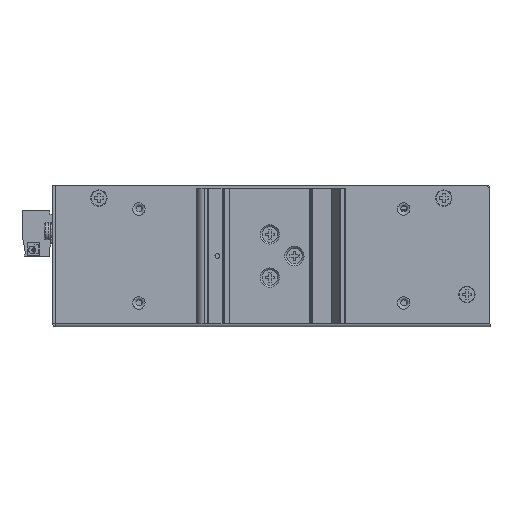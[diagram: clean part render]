
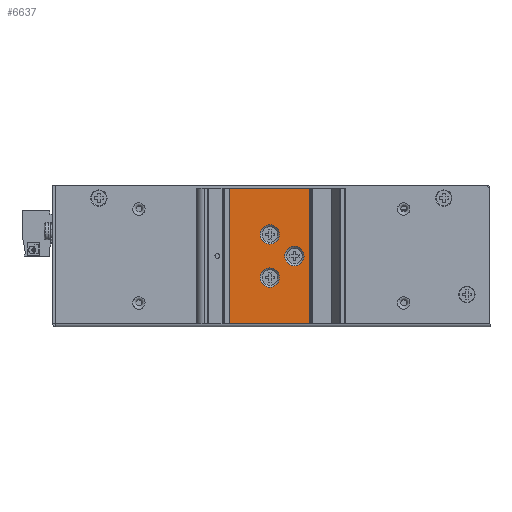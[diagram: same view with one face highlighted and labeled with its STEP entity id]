
A CAD part, front view. The second image highlights one B-rep face of the part: STEP entity #6637.
In plain terms, the highlighted planar face has unit normal (0, -1, 0) as drawn and (1, 0, 0) by its records, which use the part's own axes.
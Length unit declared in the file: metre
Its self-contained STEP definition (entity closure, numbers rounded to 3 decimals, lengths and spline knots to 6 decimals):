
#6637 = ADVANCED_FACE( '', ( #10569, #10570, #10571, #10572 ), #10573, .F. );
#10569 = FACE_OUTER_BOUND( '', #16750, .T. );
#10570 = FACE_BOUND( '', #16751, .T. );
#10571 = FACE_BOUND( '', #16752, .T. );
#10572 = FACE_BOUND( '', #16753, .T. );
#10573 = PLANE( '', #16754 );
#16750 = EDGE_LOOP( '', ( #26457, #26458, #26459, #26460 ) );
#16751 = EDGE_LOOP( '', ( #26461 ) );
#16752 = EDGE_LOOP( '', ( #26462 ) );
#16753 = EDGE_LOOP( '', ( #26463 ) );
#16754 = AXIS2_PLACEMENT_3D( '', #26464, #26465, #26466 );
#26457 = ORIENTED_EDGE( '', *, *, #33687, .T. );
#26458 = ORIENTED_EDGE( '', *, *, #33506, .T. );
#26459 = ORIENTED_EDGE( '', *, *, #31126, .T. );
#26460 = ORIENTED_EDGE( '', *, *, #33314, .F. );
#26461 = ORIENTED_EDGE( '', *, *, #32634, .F. );
#26462 = ORIENTED_EDGE( '', *, *, #31617, .F. );
#26463 = ORIENTED_EDGE( '', *, *, #33629, .F. );
#26464 = CARTESIAN_POINT( '', ( -0.0019, 0., 0.022 ) );
#26465 = DIRECTION( '', ( -1., 0., 0. ) );
#26466 = DIRECTION( '', ( 0., 0., 1. ) );
#31126 = EDGE_CURVE( '', #40639, #40640, #40641, .T. );
#31617 = EDGE_CURVE( '', #41479, #41479, #41480, .T. );
#32634 = EDGE_CURVE( '', #43081, #43081, #43082, .T. );
#33314 = EDGE_CURVE( '', #43980, #40640, #43982, .T. );
#33506 = EDGE_CURVE( '', #44230, #40639, #44231, .T. );
#33629 = EDGE_CURVE( '', #44376, #44376, #44377, .T. );
#33687 = EDGE_CURVE( '', #43980, #44230, #44440, .T. );
#40639 = VERTEX_POINT( '', #49228 );
#40640 = VERTEX_POINT( '', #49229 );
#40641 = LINE( '', #49230, #49231 );
#41479 = VERTEX_POINT( '', #50375 );
#41480 = CIRCLE( '', #50376, 0.00315 );
#43081 = VERTEX_POINT( '', #52664 );
#43082 = CIRCLE( '', #52665, 0.00315 );
#43980 = VERTEX_POINT( '', #54549 );
#43982 = LINE( '', #54551, #54552 );
#44230 = VERTEX_POINT( '', #55224 );
#44231 = LINE( '', #55225, #55226 );
#44376 = VERTEX_POINT( '', #55449 );
#44377 = CIRCLE( '', #55450, 0.00315 );
#44440 = LINE( '', #55535, #55536 );
#49228 = CARTESIAN_POINT( '', ( -0.0019, -0.0051, -0.022 ) );
#49229 = CARTESIAN_POINT( '', ( -0.0019, -0.0051, 0.022 ) );
#49230 = CARTESIAN_POINT( '', ( -0.0019, -0.0051, -0.022 ) );
#49231 = VECTOR( '', #63656, 1. );
#50375 = CARTESIAN_POINT( '', ( -0.0019, -0.02085, 0.01015 ) );
#50376 = AXIS2_PLACEMENT_3D( '', #64272, #64273, #64274 );
#52664 = CARTESIAN_POINT( '', ( -0.0019, -0.02085, -0.00385 ) );
#52665 = AXIS2_PLACEMENT_3D( '', #65504, #65505, #65506 );
#54549 = CARTESIAN_POINT( '', ( -0.0019, -0.03368, 0.022 ) );
#54551 = CARTESIAN_POINT( '', ( -0.0019, -0.03368, 0.022 ) );
#54552 = VECTOR( '', #66207, 1. );
#55224 = CARTESIAN_POINT( '', ( -0.0019, -0.03368, -0.022 ) );
#55225 = CARTESIAN_POINT( '', ( -0.0019, -0.03368, -0.022 ) );
#55226 = VECTOR( '', #66371, 1. );
#55449 = CARTESIAN_POINT( '', ( -0.0019, -0.02885, 0.00315 ) );
#55450 = AXIS2_PLACEMENT_3D( '', #66462, #66463, #66464 );
#55535 = CARTESIAN_POINT( '', ( -0.0019, -0.03368, 0.022 ) );
#55536 = VECTOR( '', #66496, 1. );
#63656 = DIRECTION( '', ( 0., 0., 1. ) );
#64272 = CARTESIAN_POINT( '', ( -0.0019, -0.02085, 0.007 ) );
#64273 = DIRECTION( '', ( 1., 0., 0. ) );
#64274 = DIRECTION( '', ( 0., 0., 1. ) );
#65504 = CARTESIAN_POINT( '', ( -0.0019, -0.02085, -0.007 ) );
#65505 = DIRECTION( '', ( 1., 0., 0. ) );
#65506 = DIRECTION( '', ( 0., 0., 1. ) );
#66207 = DIRECTION( '', ( 0., 1., 0. ) );
#66371 = DIRECTION( '', ( 0., 1., 0. ) );
#66462 = CARTESIAN_POINT( '', ( -0.0019, -0.02885, 0. ) );
#66463 = DIRECTION( '', ( 1., 0., 0. ) );
#66464 = DIRECTION( '', ( 0., 0., 1. ) );
#66496 = DIRECTION( '', ( 0., 0., -1. ) );
